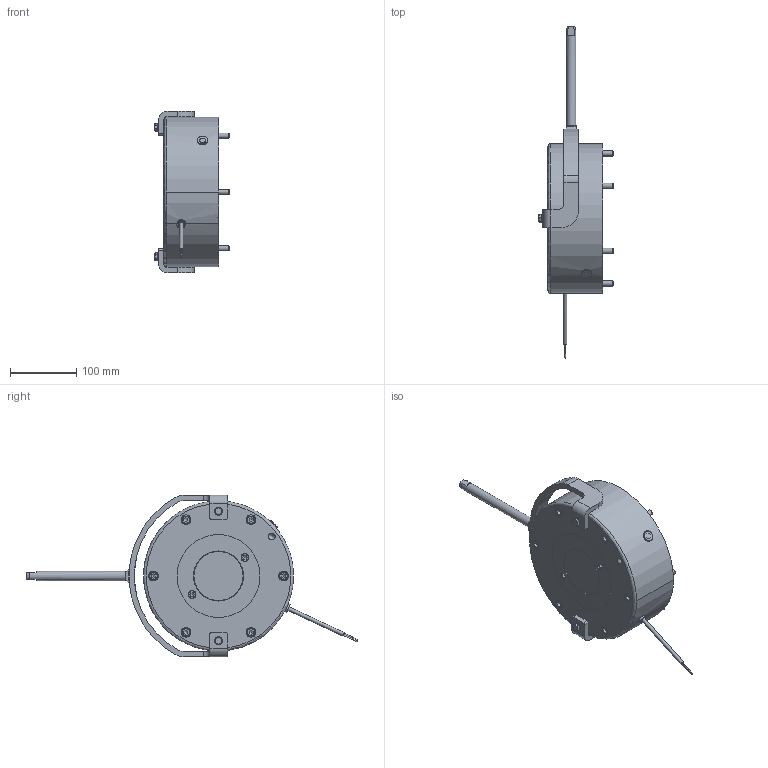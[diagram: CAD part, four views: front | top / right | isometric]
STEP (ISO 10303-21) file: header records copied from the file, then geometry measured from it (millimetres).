
FILE_DESCRIPTION(/* description */ (''),/* implementation_level */ '2;1');
FILE_NAME(/* name */ 'C:\SapWorkDir\Inventor\IP1\ConvertTempPath\5028816_IPT_000.ipt.stp',/* time_stamp */ '2020-09-18T14:46:17+02:00',/* author */ ('STRATE'),/* organization */ (''),/* preprocessor_version */ 'ST-DEVELOPER v17',/* originating_system */ 'Autodesk Inventor 2018',/* authorisation */ '');
FILE_SCHEMA (('AUTOMOTIVE_DESIGN { 1 0 10303 214 3 1 1 }'));
Length unit declared in the file: millimetre
Products named in the file (1): 5028816
Bounding box: 111.7 x 500.12 x 243 mm (x, y, z)
Volume: 2972737.6 mm3; surface area: 389712 mm2
Topology: 3 solids, 3 shells, 803 faces, 2140 edges, 1446 vertices
Faces by surface type: cylinder 389, plane 241, cone 137, torus 33, bspline 3
Full cylindrical faces by diameter (mm): 0.01 x1, 1 x2, 1.85 x2, 5.3 x1, 6 x5, 6.4 x4, 7 x1, 7.3 x2, 7.5 x2, 7.6 x1, 8 x9, 8.2 x6, 8.3 x3, 8.376 x1, 8.7 x6, 8.9 x2, 9.8 x2, 10 x9, 11 x2, 11.8 x2, 11.835 x2, 12 x2, 12.5 x6, 13 x6, 13.2 x1, 13.9 x6, 14 x1, 15 x6, 16 x3, 17 x2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
Entity records: 27411 total; most frequent: CARTESIAN_POINT 6129, DIRECTION 4371, ORIENTED_EDGE 4270, EDGE_CURVE 2135, AXIS2_PLACEMENT_3D 1829, VERTEX_POINT 1446, CIRCLE 1028, EDGE_LOOP 955
